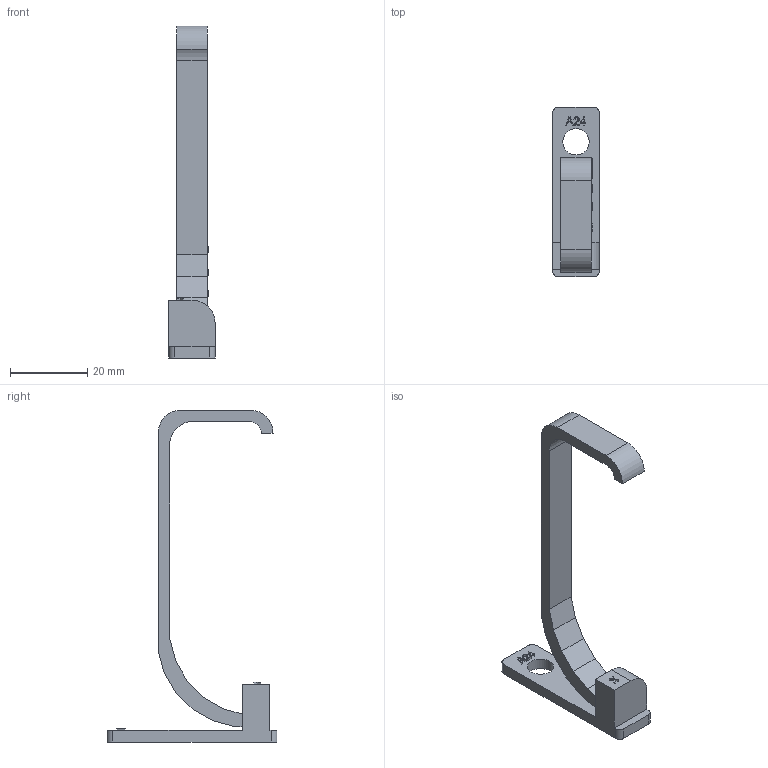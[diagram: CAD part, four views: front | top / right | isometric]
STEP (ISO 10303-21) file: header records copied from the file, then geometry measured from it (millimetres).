
FILE_DESCRIPTION(('Open CASCADE Model'),'2;1');
FILE_NAME('Open CASCADE Shape Model','1970-01-01T00:00:00',('Author'),( 'Open CASCADE'),'Open CASCADE STEP processor 7.8','Open CASCADE 7.8' ,'Unknown');
FILE_SCHEMA(('AUTOMOTIVE_DESIGN { 1 0 10303 214 1 1 1 1 }'));
Length unit declared in the file: millimetre
Products named in the file (2): Open CASCADE STEP translator 7.8 15; A24 angle and curve blade
Assembly tree (1 placements, depth 2):
  Open CASCADE STEP translator 7.8 15
    A24 angle and curve blade
Bounding box: 12 x 44 x 86 mm (x, y, z)
Volume: 5396.2 mm3; surface area: 4504.5 mm2
Topology: 1 solids, 1 shells, 377 faces, 1052 edges, 701 vertices
Faces by surface type: extrusion 222, plane 144, cylinder 11
Full cylindrical faces by diameter (mm): 6.8 x2
Entity records: 29309 total; most frequent: CARTESIAN_POINT 10592, DIRECTION 2404, ORIENTED_EDGE 2104, PCURVE 2104, DEFINITIONAL_REPRESENTATION 2104, VECTOR 2028, LINE 1806, B_SPLINE_CURVE_WITH_KNOTS 1526
